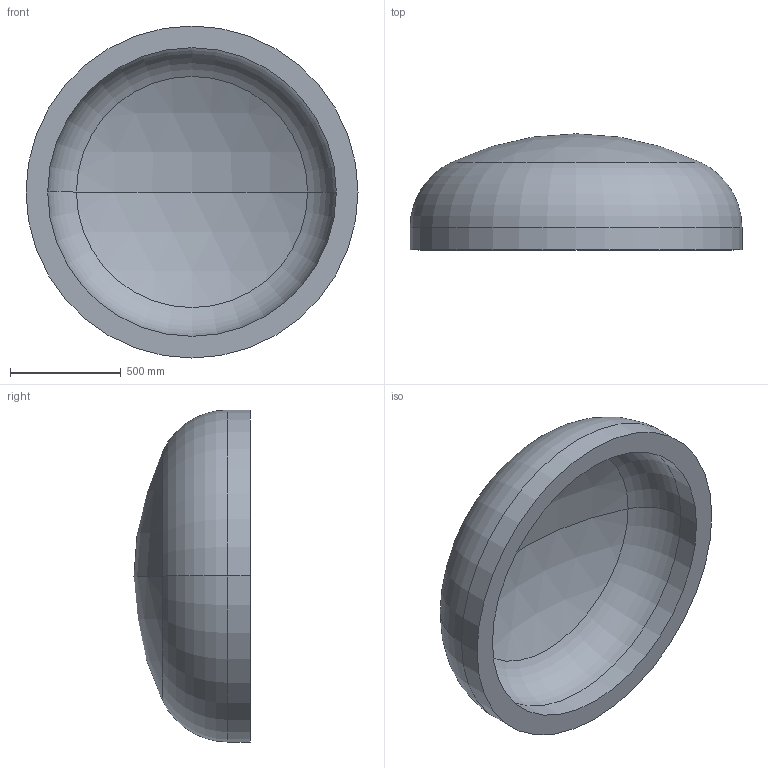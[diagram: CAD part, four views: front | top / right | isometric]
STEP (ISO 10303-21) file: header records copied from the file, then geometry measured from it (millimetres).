
FILE_DESCRIPTION (( 'STEP AP203' ), '1' );
FILE_NAME ('DIN 28013 Korbbogenform_-_Boden DIN 28013 - 1500 x 100 - I - s=98.step', '2016-07-01T10:57:42', ( '' ), ( '' ), 'SwSTEP 2.0', 'SolidWorks 2013', '' );
FILE_SCHEMA (( 'CONFIG_CONTROL_DESIGN' ));
Length unit declared in the file: millimetre
Products named in the file (1): DIN 28013 Korbbogenform_-_Boden DIN 28013 - 1500 x 100 - I - s=98
Bounding box: 1500 x 524.61 x 1500 mm (x, y, z)
Volume: 263729854.8 mm3; surface area: 5833997.5 mm2
Topology: 1 solids, 1 shells, 13 faces, 24 edges, 14 vertices
Faces by surface type: torus 4, cylinder 4, sphere 4, plane 1
Entity records: 407 total; most frequent: DIRECTION 72, CARTESIAN_POINT 52, ORIENTED_EDGE 48, AXIS2_PLACEMENT_3D 34, EDGE_CURVE 24, CIRCLE 20, EDGE_LOOP 14, VERTEX_POINT 14
